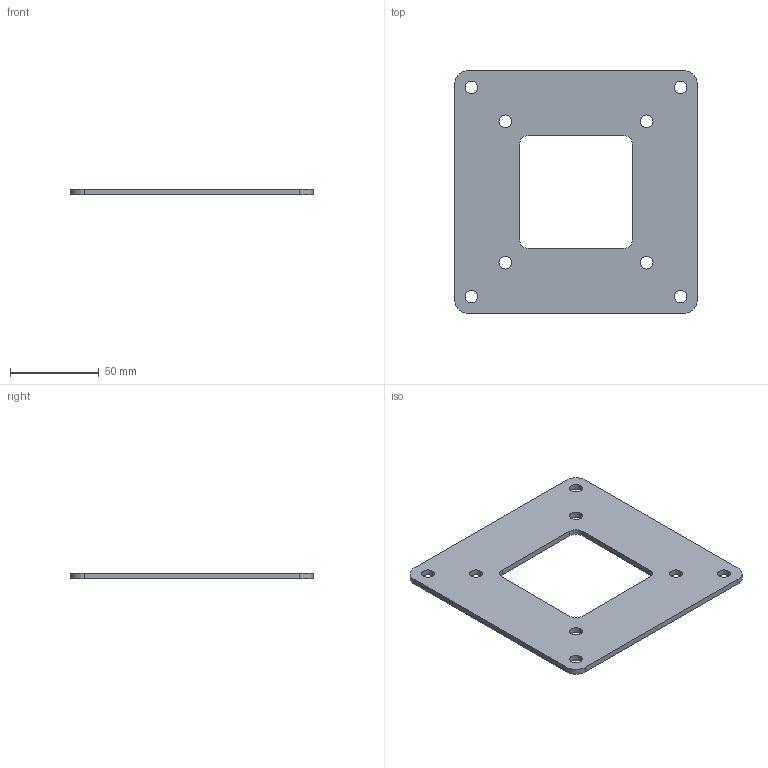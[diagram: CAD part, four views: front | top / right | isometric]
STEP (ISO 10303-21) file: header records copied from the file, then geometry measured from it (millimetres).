
FILE_DESCRIPTION (( 'STEP AP203' ), '1' );
FILE_NAME ('f44wr22.STEP', '2010-03-23T13:56:19', ( 'Hoffman User' ), ( 'Hoffman Enclosures' ), 'SwSTEP 2.0', 'SolidWorks 2009', '' );
FILE_SCHEMA (( 'CONFIG_CONTROL_DESIGN' ));
Length unit declared in the file: inch
Products named in the file (1): f44wr22
Bounding box: 136.55 x 136.55 x 3.25 mm (x, y, z)
Volume: 46363.6 mm3; surface area: 31634.8 mm2
Topology: 1 solids, 1 shells, 34 faces, 96 edges, 64 vertices
Faces by surface type: cylinder 24, plane 10
Entity records: 1243 total; most frequent: DIRECTION 214, CARTESIAN_POINT 195, ORIENTED_EDGE 192, EDGE_CURVE 96, AXIS2_PLACEMENT_3D 83, VERTEX_POINT 64, EDGE_LOOP 52, VECTOR 48
